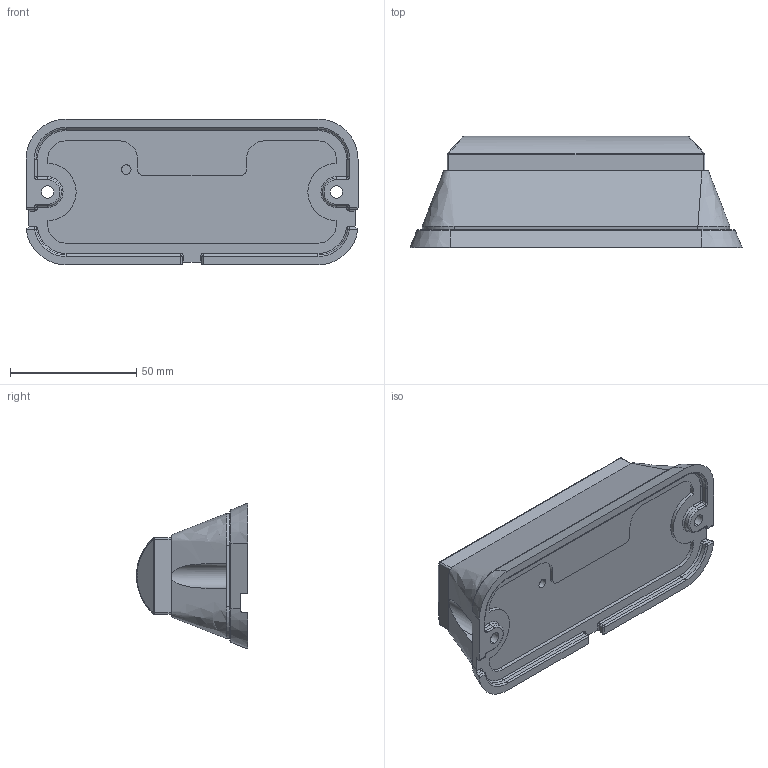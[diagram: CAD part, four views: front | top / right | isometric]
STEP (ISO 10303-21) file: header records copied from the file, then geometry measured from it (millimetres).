
FILE_DESCRIPTION (( 'STEP AP203' ), '1' );
FILE_NAME ('SL4-A-LED STEP.STEP', '2014-08-07T02:51:50', ( 'Rob' ), ( '' ), 'SwSTEP 2.0', 'SolidWorks 2013', '' );
FILE_SCHEMA (( 'CONFIG_CONTROL_DESIGN' ));
Length unit declared in the file: inch
Products named in the file (3): bottom black piece; SL4-A-LED light head; SL4-A-LED STEP
Assembly tree (2 placements, depth 2):
  SL4-A-LED STEP
    bottom black piece
    SL4-A-LED light head
Bounding box: 131.44 x 44.01 x 57.78 mm (x, y, z)
Volume: 167463.2 mm3; surface area: 31324.2 mm2
Topology: 2 solids, 2 shells, 211 faces, 514 edges, 299 vertices
Faces by surface type: cylinder 94, plane 59, torus 26, sphere 18, cone 8, bspline 6
Entity records: 7833 total; most frequent: CARTESIAN_POINT 2572, DIRECTION 1111, ORIENTED_EDGE 1008, EDGE_CURVE 504, AXIS2_PLACEMENT_3D 430, VERTEX_POINT 299, VECTOR 251, LINE 251
